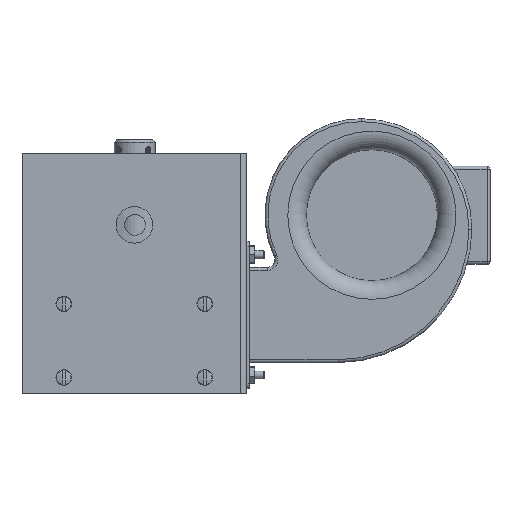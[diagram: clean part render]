
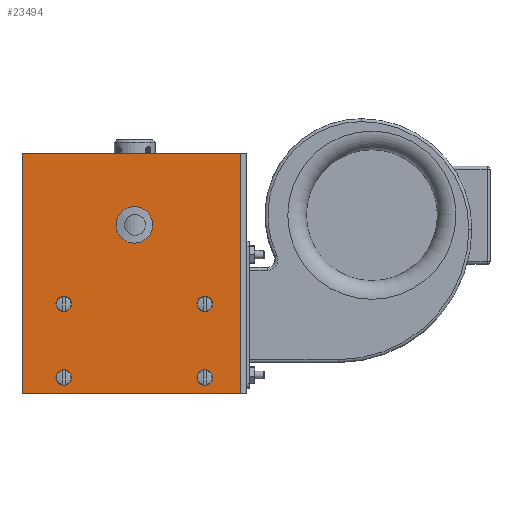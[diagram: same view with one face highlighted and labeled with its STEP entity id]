
A CAD part, left-side view. The second image highlights one B-rep face of the part: STEP entity #23494.
In plain terms, the highlighted planar face has unit normal (-1, 0, 0).
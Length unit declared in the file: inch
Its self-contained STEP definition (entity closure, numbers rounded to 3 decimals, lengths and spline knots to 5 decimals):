
#680=LINE('',#38988,#2405);
#683=LINE('',#38992,#2408);
#684=LINE('',#38996,#2409);
#685=LINE('',#38998,#2410);
#686=LINE('',#39000,#2411);
#687=LINE('',#39001,#2412);
#688=LINE('',#39007,#2413);
#689=LINE('',#39011,#2414);
#690=LINE('',#39015,#2415);
#691=LINE('',#39019,#2416);
#692=LINE('',#39023,#2417);
#693=LINE('',#39027,#2418);
#2405=VECTOR('',#28928,0.3937);
#2408=VECTOR('',#28933,0.3937);
#2409=VECTOR('',#28936,39.37008);
#2410=VECTOR('',#28937,39.37008);
#2411=VECTOR('',#28938,39.37008);
#2412=VECTOR('',#28939,39.37008);
#2413=VECTOR('',#28944,0.3937);
#2414=VECTOR('',#28947,0.3937);
#2415=VECTOR('',#28950,0.3937);
#2416=VECTOR('',#28953,0.3937);
#2417=VECTOR('',#28956,0.3937);
#2418=VECTOR('',#28959,0.3937);
#4479=FACE_BOUND('',#6363,.T.);
#4480=FACE_BOUND('',#6364,.T.);
#4481=FACE_BOUND('',#6365,.T.);
#4482=FACE_BOUND('',#6366,.T.);
#4483=FACE_BOUND('',#6367,.T.);
#4851=FACE_OUTER_BOUND('',#6362,.T.);
#6362=EDGE_LOOP('',(#16114,#16115,#16116,#16117));
#6363=EDGE_LOOP('',(#16118));
#6364=EDGE_LOOP('',(#16119,#16120,#16121,#16122));
#6365=EDGE_LOOP('',(#16123,#16124,#16125,#16126));
#6366=EDGE_LOOP('',(#16127,#16128,#16129,#16130));
#6367=EDGE_LOOP('',(#16131,#16132,#16133,#16134));
#8091=CIRCLE('',#25259,0.167);
#8093=CIRCLE('',#25264,0.4375);
#8094=CIRCLE('',#25265,0.1025);
#8095=CIRCLE('',#25266,0.167);
#8096=CIRCLE('',#25267,0.1025);
#8097=CIRCLE('',#25268,0.167);
#8098=CIRCLE('',#25269,0.1025);
#8099=CIRCLE('',#25270,0.167);
#8100=CIRCLE('',#25271,0.1025);
#9758=VERTEX_POINT('',#38962);
#9762=VERTEX_POINT('',#38969);
#9765=VERTEX_POINT('',#38979);
#9766=VERTEX_POINT('',#38980);
#9769=VERTEX_POINT('',#38994);
#9770=VERTEX_POINT('',#38995);
#9771=VERTEX_POINT('',#38997);
#9772=VERTEX_POINT('',#38999);
#9773=VERTEX_POINT('',#39002);
#9774=VERTEX_POINT('',#39005);
#9775=VERTEX_POINT('',#39006);
#9776=VERTEX_POINT('',#39008);
#9777=VERTEX_POINT('',#39010);
#9778=VERTEX_POINT('',#39013);
#9779=VERTEX_POINT('',#39014);
#9780=VERTEX_POINT('',#39016);
#9781=VERTEX_POINT('',#39018);
#9782=VERTEX_POINT('',#39021);
#9783=VERTEX_POINT('',#39022);
#9784=VERTEX_POINT('',#39024);
#9785=VERTEX_POINT('',#39026);
#12132=EDGE_CURVE('',#9765,#9766,#8091,.T.);
#12136=EDGE_CURVE('',#9766,#9758,#680,.T.);
#12139=EDGE_CURVE('',#9762,#9765,#683,.T.);
#12140=EDGE_CURVE('',#9769,#9770,#684,.T.);
#12141=EDGE_CURVE('',#9769,#9771,#685,.T.);
#12142=EDGE_CURVE('',#9771,#9772,#686,.T.);
#12143=EDGE_CURVE('',#9772,#9770,#687,.T.);
#12144=EDGE_CURVE('',#9773,#9773,#8093,.T.);
#12145=EDGE_CURVE('',#9762,#9758,#8094,.T.);
#12146=EDGE_CURVE('',#9774,#9775,#688,.T.);
#12147=EDGE_CURVE('',#9775,#9776,#8095,.T.);
#12148=EDGE_CURVE('',#9776,#9777,#689,.T.);
#12149=EDGE_CURVE('',#9774,#9777,#8096,.T.);
#12150=EDGE_CURVE('',#9778,#9779,#690,.T.);
#12151=EDGE_CURVE('',#9779,#9780,#8097,.T.);
#12152=EDGE_CURVE('',#9780,#9781,#691,.T.);
#12153=EDGE_CURVE('',#9778,#9781,#8098,.T.);
#12154=EDGE_CURVE('',#9782,#9783,#692,.T.);
#12155=EDGE_CURVE('',#9783,#9784,#8099,.T.);
#12156=EDGE_CURVE('',#9784,#9785,#693,.T.);
#12157=EDGE_CURVE('',#9782,#9785,#8100,.T.);
#16114=ORIENTED_EDGE('',*,*,#12140,.F.);
#16115=ORIENTED_EDGE('',*,*,#12141,.T.);
#16116=ORIENTED_EDGE('',*,*,#12142,.T.);
#16117=ORIENTED_EDGE('',*,*,#12143,.T.);
#16118=ORIENTED_EDGE('',*,*,#12144,.F.);
#16119=ORIENTED_EDGE('',*,*,#12139,.T.);
#16120=ORIENTED_EDGE('',*,*,#12132,.T.);
#16121=ORIENTED_EDGE('',*,*,#12136,.T.);
#16122=ORIENTED_EDGE('',*,*,#12145,.F.);
#16123=ORIENTED_EDGE('',*,*,#12146,.T.);
#16124=ORIENTED_EDGE('',*,*,#12147,.T.);
#16125=ORIENTED_EDGE('',*,*,#12148,.T.);
#16126=ORIENTED_EDGE('',*,*,#12149,.F.);
#16127=ORIENTED_EDGE('',*,*,#12150,.T.);
#16128=ORIENTED_EDGE('',*,*,#12151,.T.);
#16129=ORIENTED_EDGE('',*,*,#12152,.T.);
#16130=ORIENTED_EDGE('',*,*,#12153,.F.);
#16131=ORIENTED_EDGE('',*,*,#12154,.T.);
#16132=ORIENTED_EDGE('',*,*,#12155,.T.);
#16133=ORIENTED_EDGE('',*,*,#12156,.T.);
#16134=ORIENTED_EDGE('',*,*,#12157,.F.);
#22590=PLANE('',#25263);
#23494=ADVANCED_FACE('',(#4851,#4479,#4480,#4481,#4482,#4483),#22590,.F.);
#25259=AXIS2_PLACEMENT_3D('',#38981,#28920,#28921);
#25263=AXIS2_PLACEMENT_3D('',#38993,#28934,#28935);
#25264=AXIS2_PLACEMENT_3D('',#39003,#28940,#28941);
#25265=AXIS2_PLACEMENT_3D('',#39004,#28942,#28943);
#25266=AXIS2_PLACEMENT_3D('',#39009,#28945,#28946);
#25267=AXIS2_PLACEMENT_3D('',#39012,#28948,#28949);
#25268=AXIS2_PLACEMENT_3D('',#39017,#28951,#28952);
#25269=AXIS2_PLACEMENT_3D('',#39020,#28954,#28955);
#25270=AXIS2_PLACEMENT_3D('',#39025,#28957,#28958);
#25271=AXIS2_PLACEMENT_3D('',#39028,#28960,#28961);
#28920=DIRECTION('center_axis',(1.,0.,0.));
#28921=DIRECTION('ref_axis',(0.,0.881,-0.473));
#28928=DIRECTION('',(0.,-0.841,0.54));
#28933=DIRECTION('',(0.,0.916,-0.402));
#28934=DIRECTION('center_axis',(1.,0.,0.));
#28935=DIRECTION('ref_axis',(0.,1.,0.));
#28936=DIRECTION('',(0.,0.,-1.));
#28937=DIRECTION('',(0.,1.,0.));
#28938=DIRECTION('',(0.,0.,-1.));
#28939=DIRECTION('',(0.,-1.,0.));
#28940=DIRECTION('center_axis',(-1.,0.,0.));
#28941=DIRECTION('ref_axis',(0.,-1.,0.));
#28942=DIRECTION('center_axis',(-1.,0.,0.));
#28943=DIRECTION('ref_axis',(0.,-1.,0.));
#28944=DIRECTION('',(0.,0.912,-0.411));
#28945=DIRECTION('center_axis',(1.,0.,0.));
#28946=DIRECTION('ref_axis',(0.,0.877,-0.481));
#28947=DIRECTION('',(0.,-0.836,0.548));
#28948=DIRECTION('center_axis',(-1.,0.,0.));
#28949=DIRECTION('ref_axis',(0.,-1.,0.));
#28950=DIRECTION('',(0.,0.078,-0.997));
#28951=DIRECTION('center_axis',(1.,0.,0.));
#28952=DIRECTION('ref_axis',(0.,0.,
-1.));
#28953=DIRECTION('',(0.,0.078,0.997));
#28954=DIRECTION('center_axis',(-1.,0.,0.));
#28955=DIRECTION('ref_axis',(0.,-1.,0.));
#28956=DIRECTION('',(0.,0.078,-0.997));
#28957=DIRECTION('center_axis',(1.,0.,0.));
#28958=DIRECTION('ref_axis',(0.,0.,
-1.));
#28959=DIRECTION('',(0.,0.078,0.997));
#28960=DIRECTION('center_axis',(-1.,0.,0.));
#28961=DIRECTION('ref_axis',(0.,-1.,0.));
#38962=CARTESIAN_POINT('',(-2.6875,1.08625,-0.78938));
#38969=CARTESIAN_POINT('',(-2.6875,1.09385,-0.7752));
#38979=CARTESIAN_POINT('',(-2.6875,1.15291,-0.80113));
#38980=CARTESIAN_POINT('',(-2.6875,1.14053,-0.82423));
#38981=CARTESIAN_POINT('Origin',(-2.6875,1.,-0.734));
#38988=CARTESIAN_POINT('',(-2.6875,0.4791,-0.39955));
#38992=CARTESIAN_POINT('',(-2.6875,0.44571,-0.49065));
#38993=CARTESIAN_POINT('Origin',(-2.6875,0.,0.));
#38994=CARTESIAN_POINT('',(-2.6875,0.137,2.875));
#38995=CARTESIAN_POINT('',(-2.6875,0.137,-2.875));
#38996=CARTESIAN_POINT('',(-2.6875,0.137,-2.875));
#38997=CARTESIAN_POINT('',(-2.6875,5.375,2.875));
#38998=CARTESIAN_POINT('',(-2.6875,0.,2.875));
#38999=CARTESIAN_POINT('',(-2.6875,5.375,-2.875));
#39000=CARTESIAN_POINT('',(-2.6875,5.375,0.));
#39001=CARTESIAN_POINT('',(-2.6875,0.,-2.875));
#39002=CARTESIAN_POINT('',(-2.6875,3.125,1.15625));
#39003=CARTESIAN_POINT('Origin',(-2.6875,2.6875,1.15625));
#39004=CARTESIAN_POINT('Origin',(-2.6875,1.,-0.734));
#39005=CARTESIAN_POINT('',(-2.6875,1.09345,-2.54212));
#39006=CARTESIAN_POINT('',(-2.6875,1.15225,-2.56862));
#39007=CARTESIAN_POINT('',(-2.6875,0.11617,-2.10167));
#39008=CARTESIAN_POINT('',(-2.6875,1.13964,-2.59159));
#39009=CARTESIAN_POINT('Origin',(-2.6875,1.,-2.5));
#39010=CARTESIAN_POINT('',(-2.6875,1.08571,-2.55622));
#39011=CARTESIAN_POINT('',(-2.6875,0.07714,-1.89471));
#39012=CARTESIAN_POINT('Origin',(-2.6875,1.,-2.5));
#39013=CARTESIAN_POINT('',(-2.6875,4.38304,-2.60218));
#39014=CARTESIAN_POINT('',(-2.6875,4.3881,-2.66649));
#39015=CARTESIAN_POINT('',(-2.6875,4.26376,-1.08659));
#39016=CARTESIAN_POINT('',(-2.6875,4.3619,-2.66649));
#39017=CARTESIAN_POINT('Origin',(-2.6875,4.375,-2.5));
#39018=CARTESIAN_POINT('',(-2.6875,4.36696,-2.60218));
#39019=CARTESIAN_POINT('',(-2.6875,4.45931,-1.42879));
#39020=CARTESIAN_POINT('Origin',(-2.6875,4.375,-2.5));
#39021=CARTESIAN_POINT('',(-2.6875,4.38304,-0.83618));
#39022=CARTESIAN_POINT('',(-2.6875,4.3881,-0.90049));
#39023=CARTESIAN_POINT('',(-2.6875,4.33283,-0.19816));
#39024=CARTESIAN_POINT('',(-2.6875,4.3619,-0.90049));
#39025=CARTESIAN_POINT('Origin',(-2.6875,4.375,-0.734));
#39026=CARTESIAN_POINT('',(-2.6875,4.36696,-0.83618));
#39027=CARTESIAN_POINT('',(-2.6875,4.39024,-0.54036));
#39028=CARTESIAN_POINT('Origin',(-2.6875,4.375,-0.734));
